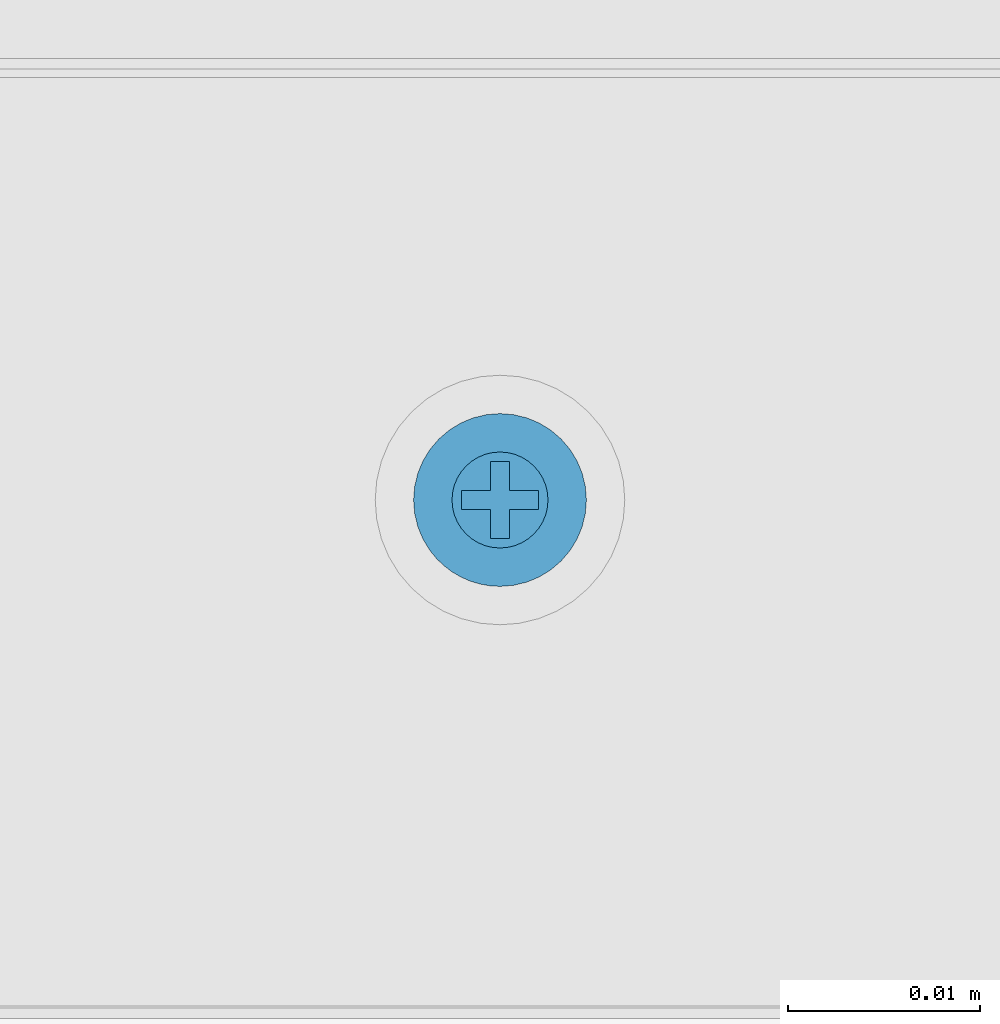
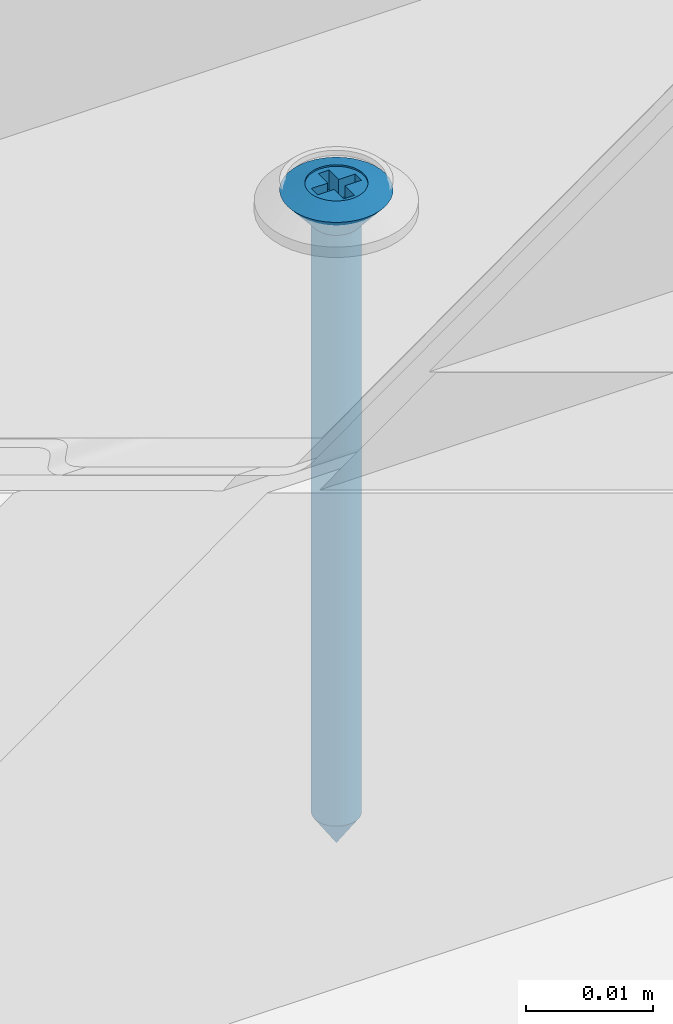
# One storey, part 20 of 36: 1 wall.
"""IFC2X3 building model written with IfcOpenShell, lengths in millimetres."""

from ifc_helpers import new_model, entity, si_unit, converted_unit, direction, frame, origin, origin_with_axes, place, context, project, spatial, faceted_brep, element, save


model = new_model("IFC2X3")

# Units and contexts
model_context = context("Model", 3, precision=1e-05, world=origin(), true_north=direction((0.0, 1.0, 0.0)))
ifc_project = project(units=[si_unit("LENGTHUNIT", "METRE", prefix="MILLI"), si_unit("AREAUNIT", "SQUARE_METRE"), si_unit("VOLUMEUNIT", "CUBIC_METRE"), converted_unit("PLANEANGLEUNIT", "DEGREE", entity("IfcPlaneAngleMeasure", 0.01745), si_unit("PLANEANGLEUNIT", "RADIAN"), dimensions=[0, 0, 0, 0, 0, 0, 0]), si_unit("SOLIDANGLEUNIT", "STERADIAN"), si_unit("MASSUNIT", "GRAM"), si_unit("TIMEUNIT", "SECOND"), si_unit("THERMODYNAMICTEMPERATUREUNIT", "DEGREE_CELSIUS"), si_unit("LUMINOUSINTENSITYUNIT", "LUMEN")], contexts=[model_context])

# Site, building, storey
site_placement = place(None, origin_with_axes())
site = spatial("IfcSite", under=ifc_project, at=site_placement, Name="Default Site", CompositionType="ELEMENT")
building_placement = place(site_placement, origin_with_axes())
building = spatial("IfcBuilding", under=site, at=building_placement, Name="Default Building", CompositionType="ELEMENT")
storey_placement = place(building_placement, origin_with_axes())
storey = spatial("IfcBuildingStorey", under=building, at=storey_placement, Name="Default Building Storey", CompositionType="ELEMENT", Elevation=0.0)

# Wall
wall_placement = place(storey_placement, frame((3652.454370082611, 5452.424146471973, 110.3903952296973), z_axis=(7.620176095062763e-14, -6.858158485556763e-13, 1.0), x_axis=(1.0, -9.714451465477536e-17, -7.620176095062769e-14)))
element("IfcWall", 1, at=wall_placement, inside=storey, Name="Kołek rozporowy min. fi 6", context=model_context, shape_type="Brep", body=[
    faceted_brep([(-1438.31414949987, -3453.283223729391, -0.4642567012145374), (-1435.814149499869, -3453.283223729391, -3.464256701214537), (-1435.78952618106, -3452.97035479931, -3.464256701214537), (-1438.258747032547, -3452.57926863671, -0.4642567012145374), (-1435.71626253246, -3452.665189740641, -3.464256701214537), (-1438.093903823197, -3451.892647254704, -0.4642567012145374), (-1435.596162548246, -3452.375242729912, -3.464256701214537), (-1437.823678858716, -3451.240266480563, -0.4642567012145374), (-1435.432183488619, -3452.107653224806, -3.464256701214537), (-1437.454725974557, -3450.638190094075, -0.4642567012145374), (-1435.228363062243, -3451.869010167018, -3.464256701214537), (-1436.996130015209, -3450.101243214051, -0.4642567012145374), (-1434.989720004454, -3451.665189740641, -3.464256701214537), (-1436.459183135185, -3449.642647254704, -0.4642567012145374), (-1434.722130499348, -3451.501210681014, -3.464256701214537), (-1435.857106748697, -3449.273694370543, -0.4642567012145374), (-1434.432183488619, -3451.381110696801, -3.464256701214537), (-1435.204725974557, -3449.003469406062, -0.4642567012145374), (-1434.12701842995, -3451.307847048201, -3.464256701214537), (-1434.51810459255, -3448.838626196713, -0.4642567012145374), (-1433.814149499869, -3451.283223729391, -3.464256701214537), (-1433.814149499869, -3448.783223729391, -0.4642567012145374), (-1433.501280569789, -3451.307847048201, -3.464256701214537), (-1433.110194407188, -3448.838626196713, -0.4642567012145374), (-1433.19611551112, -3451.381110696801, -3.464256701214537), (-1432.423573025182, -3449.003469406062, -0.4642567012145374), (-1432.906168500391, -3451.501210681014, -3.464256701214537), (-1431.771192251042, -3449.273694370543, -0.4642567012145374), (-1432.638578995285, -3451.665189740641, -3.464256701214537), (-1431.169115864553, -3449.642647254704, -0.4642567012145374), (-1432.399935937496, -3451.869010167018, -3.464256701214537), (-1430.63216898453, -3450.101243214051, -0.4642567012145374), (-1432.196115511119, -3452.107653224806, -3.464256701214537), (-1430.173573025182, -3450.638190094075, -0.4642567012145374), (-1432.032136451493, -3452.375242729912, -3.464256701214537), (-1429.804620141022, -3451.240266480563, -0.4642567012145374), (-1431.912036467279, -3452.665189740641, -3.464256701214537), (-1429.534395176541, -3451.892647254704, -0.4642567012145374), (-1431.838772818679, -3453.596092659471, -3.464256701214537), (-1429.369551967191, -3453.987178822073, -0.4642567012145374), (-1429.314149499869, -3453.283223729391, -0.4642567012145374), (-1431.81414949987, -3453.283223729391, -3.464256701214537), (-1429.369551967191, -3452.57926863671, -0.4642567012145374), (-1431.838772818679, -3452.97035479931, -3.464256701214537), (-1431.912036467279, -3453.901257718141, -3.464256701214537), (-1429.534395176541, -3454.673800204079, -0.4642567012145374), (-1432.032136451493, -3454.19120472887, -3.464256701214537), (-1429.804620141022, -3455.326180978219, -0.4642567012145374), (-1432.196115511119, -3454.458794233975, -3.464256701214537), (-1430.173573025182, -3455.928257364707, -0.4642567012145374), (-1432.399935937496, -3454.697437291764, -3.464256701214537), (-1430.63216898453, -3456.465204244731, -0.4642567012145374), (-1432.638578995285, -3454.901257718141, -3.464256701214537), (-1431.169115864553, -3456.923800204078, -0.4642567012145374), (-1432.906168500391, -3455.065236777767, -3.464256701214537), (-1431.771192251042, -3457.292753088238, -0.4642567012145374), (-1433.19611551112, -3455.185336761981, -3.464256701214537), (-1432.423573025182, -3457.562978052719, -0.4642567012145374), (-1433.501280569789, -3455.258600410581, -3.464256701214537), (-1433.110194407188, -3457.727821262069, -0.4642567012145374), (-1433.814149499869, -3455.283223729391, -3.464256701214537), (-1433.814149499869, -3457.783223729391, -0.4642567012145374), (-1434.34306778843, -3457.752031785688, -0.4642567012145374), (-1434.12701842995, -3455.258600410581, -3.464256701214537), (-1434.432183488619, -3455.185336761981, -3.464256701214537), (-1434.864653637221, -3457.658888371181, -0.4642567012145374), (-1435.371676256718, -3457.505084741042, -0.4642567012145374), (-1434.722130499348, -3455.065236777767, -3.464256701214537), (-1435.857106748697, -3457.292753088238, -0.4642567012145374), (-1434.989720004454, -3454.901257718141, -3.464256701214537), (-1435.228363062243, -3454.697437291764, -3.464256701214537), (-1436.314215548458, -3457.024836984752, -0.4642567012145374), (-1436.736665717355, -3456.705050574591, -0.4642567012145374), (-1437.11860079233, -3456.337827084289, -0.4642567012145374), (-1437.454725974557, -3455.928257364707, -0.4642567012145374), (-1435.432183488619, -3454.458794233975, -3.464256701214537), (-1435.596162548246, -3454.19120472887, -3.464256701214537), (-1437.823678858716, -3455.326180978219, -0.4642567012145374), (-1435.71626253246, -3453.901257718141, -3.464256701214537), (-1438.093903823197, -3454.673800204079, -0.4642567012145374), (-1435.78952618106, -3453.596092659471, -3.464256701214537), (-1438.258747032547, -3453.987178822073, -0.4642567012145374), (-1434.205235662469, -3455.752444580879, 0.2007375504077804), (-1433.814149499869, -3455.78322372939, 0.2007375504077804), (-1434.586691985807, -3455.660865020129, 0.2007375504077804), (-1434.949125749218, -3455.510740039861, 0.2007375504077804), (-1435.283612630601, -3455.305766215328, 0.2007375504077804), (-1435.581916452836, -3455.050990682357, 0.2007375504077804), (-1435.836691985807, -3454.752686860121, 0.2007375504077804), (-1436.04166581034, -3454.41819997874, 0.2007375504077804), (-1436.191790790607, -3454.055766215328, 0.2007375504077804), (-1436.283370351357, -3453.674309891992, 0.2007375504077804), (-1436.314149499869, -3453.283223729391, 0.2007375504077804), (-1436.283370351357, -3452.892137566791, 0.2007375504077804), (-1436.191790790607, -3452.510681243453, 0.2007375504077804), (-1436.04166581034, -3452.148247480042, 0.2007375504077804), (-1435.836691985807, -3451.81376059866, 0.200737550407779), (-1435.581916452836, -3451.515456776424, 0.2007375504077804), (-1435.283612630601, -3451.260681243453, 0.2007375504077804), (-1434.949125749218, -3451.05570741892, 0.2007375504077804), (-1434.586691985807, -3450.905582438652, 0.2007375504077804), (-1433.423063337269, -3450.814002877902, 0.2007375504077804), (-1433.814149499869, -3450.783223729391, 0.2007375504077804), (-1434.205235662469, -3450.814002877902, 0.2007375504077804), (-1433.041607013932, -3450.905582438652, 0.2007375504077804), (-1432.67917325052, -3451.05570741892, 0.2007375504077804), (-1432.344686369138, -3451.260681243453, 0.2007375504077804), (-1432.046382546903, -3451.515456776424, 0.2007375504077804), (-1431.791607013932, -3451.81376059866, 0.2007375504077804), (-1431.586633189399, -3452.148247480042, 0.2007375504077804), (-1431.436508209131, -3452.510681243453, 0.2007375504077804), (-1431.344928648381, -3452.892137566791, 0.2007375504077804), (-1431.314149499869, -3453.283223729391, 0.2007375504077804), (-1431.344928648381, -3453.674309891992, 0.2007375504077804), (-1431.436508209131, -3454.055766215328, 0.2007375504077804), (-1431.586633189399, -3454.41819997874, 0.2007375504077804), (-1431.791607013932, -3454.752686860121, 0.2007375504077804), (-1432.046382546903, -3455.050990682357, 0.2007375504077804), (-1432.344686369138, -3455.305766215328, 0.2007375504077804), (-1432.67917325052, -3455.510740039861, 0.2007375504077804), (-1433.041607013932, -3455.660865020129, 0.2007375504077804), (-1433.423063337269, -3455.752444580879, 0.2007375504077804), (-1433.814149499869, -3453.283223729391, -63.46425670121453), (-1435.789526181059, -3452.97035479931, -60.46425670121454), (-1435.814149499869, -3453.283223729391, -60.46425670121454), (-1435.716262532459, -3452.665189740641, -60.46425670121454), (-1435.596162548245, -3452.375242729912, -60.46425670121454), (-1435.432183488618, -3452.107653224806, -60.46425670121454), (-1435.228363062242, -3451.869010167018, -60.46425670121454), (-1434.989720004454, -3451.665189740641, -60.46425670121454), (-1434.722130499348, -3451.501210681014, -60.46425670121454), (-1434.432183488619, -3451.381110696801, -60.46425670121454), (-1434.127018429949, -3451.307847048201, -60.46425670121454), (-1433.814149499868, -3451.283223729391, -60.46425670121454), (-1433.501280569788, -3451.307847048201, -60.46425670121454), (-1433.196115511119, -3451.381110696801, -60.46425670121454), (-1432.90616850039, -3451.501210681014, -60.46425670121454), (-1432.638578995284, -3451.665189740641, -60.46425670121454), (-1432.399935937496, -3451.869010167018, -60.46425670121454), (-1432.196115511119, -3452.107653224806, -60.46425670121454), (-1432.032136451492, -3452.375242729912, -60.46425670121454), (-1431.912036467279, -3452.665189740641, -60.46425670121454), (-1431.838772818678, -3452.97035479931, -60.46425670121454), (-1431.814149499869, -3453.283223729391, -60.46425670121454), (-1431.838772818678, -3453.596092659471, -60.46425670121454), (-1431.912036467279, -3453.901257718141, -60.46425670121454), (-1432.032136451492, -3454.19120472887, -60.46425670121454), (-1432.196115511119, -3454.458794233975, -60.46425670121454), (-1432.399935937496, -3454.697437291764, -60.46425670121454), (-1432.638578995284, -3454.901257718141, -60.46425670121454), (-1432.90616850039, -3455.065236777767, -60.46425670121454), (-1433.196115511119, -3455.185336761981, -60.46425670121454), (-1433.501280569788, -3455.258600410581, -60.46425670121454), (-1433.814149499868, -3455.283223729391, -60.46425670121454), (-1434.127018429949, -3455.258600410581, -60.46425670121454), (-1434.432183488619, -3455.185336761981, -60.46425670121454), (-1434.722130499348, -3455.065236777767, -60.46425670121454), (-1434.989720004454, -3454.901257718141, -60.46425670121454), (-1435.228363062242, -3454.697437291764, -60.46425670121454), (-1435.432183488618, -3454.458794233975, -60.46425670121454), (-1435.596162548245, -3454.19120472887, -60.46425670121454), (-1435.716262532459, -3453.901257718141, -60.46425670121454), (-1435.789526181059, -3453.596092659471, -60.46425670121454), (-1435.814149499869, -3453.783223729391, 0.04999999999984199), (-1436.04166581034, -3454.41819997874, 0.04999999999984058), (-1436.191790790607, -3454.055766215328, 0.04999999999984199), (-1435.814149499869, -3452.783223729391, 0.04999999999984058), (-1434.314149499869, -3453.783223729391, 0.04999999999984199), (-1434.314149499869, -3455.28322372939, 0.04999999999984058), (-1433.314149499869, -3455.28322372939, 0.04999999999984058), (-1433.314149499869, -3453.783223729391, 0.04999999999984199), (-1431.814149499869, -3453.783223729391, 0.04999999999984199), (-1431.814149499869, -3452.783223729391, 0.04999999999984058), (-1433.314149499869, -3452.783223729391, 0.04999999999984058), (-1433.314149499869, -3451.283223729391, 0.04999999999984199), (-1434.314149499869, -3451.283223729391, 0.04999999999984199), (-1434.314149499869, -3452.783223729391, 0.04999999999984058), (-1436.283370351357, -3453.674309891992, 0.04999999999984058), (-1436.314149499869, -3453.283223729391, 0.04999999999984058), (-1436.283370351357, -3452.892137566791, 0.04999999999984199), (-1436.191790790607, -3452.510681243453, 0.04999999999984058), (-1436.04166581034, -3452.148247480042, 0.04999999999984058), (-1435.836691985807, -3451.81376059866, 0.04999999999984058), (-1435.581916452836, -3451.515456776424, 0.04999999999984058), (-1435.283612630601, -3451.260681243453, 0.04999999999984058), (-1434.949125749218, -3451.05570741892, 0.04999999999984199), (-1434.586691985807, -3450.905582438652, 0.04999999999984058), (-1434.205235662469, -3450.814002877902, 0.04999999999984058), (-1433.814149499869, -3450.783223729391, 0.04999999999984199), (-1433.423063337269, -3450.814002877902, 0.04999999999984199), (-1433.041607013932, -3450.905582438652, 0.04999999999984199), (-1432.67917325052, -3451.05570741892, 0.04999999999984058), (-1432.344686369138, -3451.260681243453, 0.04999999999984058), (-1432.046382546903, -3451.515456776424, 0.04999999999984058), (-1431.791607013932, -3451.81376059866, 0.04999999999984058), (-1431.586633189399, -3452.148247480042, 0.04999999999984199), (-1431.436508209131, -3452.510681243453, 0.04999999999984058), (-1431.344928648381, -3452.892137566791, 0.04999999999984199), (-1431.314149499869, -3453.283223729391, 0.04999999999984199), (-1431.344928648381, -3453.674309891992, 0.04999999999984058), (-1431.436508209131, -3454.055766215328, 0.04999999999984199), (-1431.586633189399, -3454.41819997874, 0.04999999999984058), (-1431.791607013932, -3454.752686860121, 0.04999999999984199), (-1432.046382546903, -3455.050990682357, 0.04999999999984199), (-1432.344686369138, -3455.305766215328, 0.04999999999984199), (-1432.67917325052, -3455.510740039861, 0.04999999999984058), (-1433.041607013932, -3455.660865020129, 0.04999999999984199), (-1433.423063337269, -3455.752444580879, 0.04999999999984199), (-1433.814149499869, -3455.78322372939, 0.04999999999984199), (-1434.205235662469, -3455.752444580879, 0.04999999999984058), (-1434.586691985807, -3455.660865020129, 0.04999999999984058), (-1434.949125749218, -3455.510740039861, 0.04999999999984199), (-1435.283612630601, -3455.305766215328, 0.04999999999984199), (-1435.581916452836, -3455.050990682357, 0.04999999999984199), (-1435.836691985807, -3454.752686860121, 0.04999999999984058), (-1434.314149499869, -3452.783223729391, -1.79926244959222), (-1434.314149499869, -3451.283223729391, -1.799262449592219), (-1433.314149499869, -3451.283223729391, -1.799262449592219), (-1433.314149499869, -3452.783223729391, -1.79926244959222), (-1431.81414949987, -3452.783223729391, -1.79926244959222), (-1431.81414949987, -3453.783223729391, -1.799262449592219), (-1433.314149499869, -3453.783223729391, -1.799262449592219), (-1433.314149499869, -3455.28322372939, -1.79926244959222), (-1434.314149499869, -3455.28322372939, -1.79926244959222), (-1434.314149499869, -3453.783223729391, -1.799262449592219), (-1435.814149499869, -3453.783223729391, -1.799262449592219), (-1435.814149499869, -3452.783223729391, -1.79926244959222)], [[[0, 1, 2, 3]], [[4, 5, 3, 2]], [[6, 7, 5, 4]], [[7, 6, 8, 9]], [[10, 11, 9, 8]], [[11, 10, 12, 13]], [[14, 15, 13, 12]], [[16, 17, 15, 14]], [[17, 16, 18, 19]], [[20, 21, 19, 18]], [[21, 20, 22, 23]], [[24, 25, 23, 22]], [[26, 27, 25, 24]], [[27, 26, 28, 29]], [[30, 31, 29, 28]], [[31, 30, 32, 33]], [[34, 35, 33, 32]], [[36, 37, 35, 34]], [[38, 39, 40, 41]], [[41, 40, 42, 43]], [[37, 36, 43, 42]], [[44, 45, 39, 38]], [[46, 47, 45, 44]], [[47, 46, 48, 49]], [[50, 51, 49, 48]], [[51, 50, 52, 53]], [[54, 55, 53, 52]], [[56, 57, 55, 54]], [[57, 56, 58, 59]], [[60, 61, 59, 58]], [[62, 61, 63]], [[61, 60, 63]], [[63, 64, 62]], [[64, 65, 62]], [[66, 65, 64]], [[64, 67, 66]], [[67, 68, 66]], [[69, 70, 71]], [[70, 72, 71]], [[71, 68, 69]], [[68, 67, 69]], [[70, 73, 72]], [[74, 73, 75]], [[73, 70, 75]], [[76, 77, 74, 75]], [[78, 79, 77, 76]], [[79, 78, 80, 81]], [[1, 0, 81, 80]], [[82, 83, 62]], [[83, 61, 62]], [[62, 65, 82]], [[65, 84, 82]], [[66, 68, 84]], [[68, 85, 84]], [[84, 65, 66]], [[86, 85, 71]], [[85, 68, 71]], [[72, 73, 87]], [[87, 86, 72]], [[86, 71, 72]], [[88, 87, 74]], [[87, 73, 74]], [[77, 89, 88, 74]], [[79, 90, 89, 77]], [[90, 79, 81, 91]], [[0, 92, 91, 81]], [[92, 0, 3, 93]], [[5, 94, 93, 3]], [[7, 95, 94, 5]], [[95, 7, 9, 96]], [[11, 97, 96, 9]], [[97, 11, 13, 98]], [[15, 99, 98, 13]], [[17, 100, 99, 15]], [[23, 101, 102, 21]], [[21, 102, 103, 19]], [[100, 17, 19, 103]], [[25, 104, 101, 23]], [[27, 105, 104, 25]], [[105, 27, 29, 106]], [[31, 107, 106, 29]], [[107, 31, 33, 108]], [[35, 109, 108, 33]], [[37, 110, 109, 35]], [[110, 37, 42, 111]], [[40, 112, 111, 42]], [[112, 40, 39, 113]], [[45, 114, 113, 39]], [[47, 115, 114, 45]], [[115, 47, 49, 116]], [[51, 117, 116, 49]], [[117, 51, 53, 118]], [[55, 119, 118, 53]], [[57, 120, 119, 55]], [[120, 57, 59, 121]], [[61, 83, 121, 59]], [[122, 123, 124]], [[122, 125, 123]], [[122, 126, 125]], [[127, 126, 122]], [[122, 128, 127]], [[129, 128, 122]], [[122, 130, 129]], [[122, 131, 130]], [[132, 131, 122]], [[122, 133, 132]], [[134, 133, 122]], [[122, 135, 134]], [[122, 136, 135]], [[137, 136, 122]], [[122, 138, 137]], [[139, 138, 122]], [[122, 140, 139]], [[122, 141, 140]], [[142, 141, 122]], [[122, 143, 142]], [[144, 143, 122]], [[122, 145, 144]], [[122, 146, 145]], [[147, 146, 122]], [[122, 148, 147]], [[149, 148, 122]], [[122, 150, 149]], [[122, 151, 150]], [[152, 151, 122]], [[122, 153, 152]], [[154, 153, 122]], [[122, 155, 154]], [[122, 156, 155]], [[157, 156, 122]], [[122, 158, 157]], [[159, 158, 122]], [[122, 160, 159]], [[122, 161, 160]], [[162, 161, 122]], [[124, 162, 122]], [[1, 124, 123, 2]], [[125, 4, 2, 123]], [[126, 6, 4, 125]], [[6, 126, 127, 8]], [[128, 10, 8, 127]], [[10, 128, 129, 12]], [[130, 14, 12, 129]], [[131, 16, 14, 130]], [[16, 131, 132, 18]], [[133, 20, 18, 132]], [[20, 133, 134, 22]], [[135, 24, 22, 134]], [[136, 26, 24, 135]], [[26, 136, 137, 28]], [[138, 30, 28, 137]], [[30, 138, 139, 32]], [[140, 34, 32, 139]], [[141, 36, 34, 140]], [[144, 38, 41, 143]], [[143, 41, 43, 142]], [[36, 141, 142, 43]], [[145, 44, 38, 144]], [[146, 46, 44, 145]], [[46, 146, 147, 48]], [[148, 50, 48, 147]], [[50, 148, 149, 52]], [[150, 54, 52, 149]], [[151, 56, 54, 150]], [[56, 151, 152, 58]], [[153, 60, 58, 152]], [[60, 153, 154, 63]], [[155, 64, 63, 154]], [[156, 67, 64, 155]], [[67, 156, 157, 69]], [[158, 70, 69, 157]], [[70, 158, 159, 75]], [[160, 76, 75, 159]], [[161, 78, 76, 160]], [[78, 161, 162, 80]], [[124, 1, 80, 162]], [[163, 164, 165, 166]], [[163, 167, 168, 169, 170, 171, 172, 173, 174, 175, 176, 166, 165, 177, 178, 179, 180, 181, 182, 183, 184, 185, 186, 187, 188, 189, 190, 191, 192, 193, 194, 195, 196, 197, 198, 199, 200, 201, 202, 203, 204, 205, 206, 207, 208, 209, 210, 211, 212, 213, 214, 164]], [[199, 198, 112, 113]], [[113, 114, 200, 199]], [[114, 115, 201, 200]], [[202, 201, 115, 116]], [[116, 117, 203, 202]], [[204, 203, 117, 118]], [[118, 119, 205, 204]], [[119, 120, 206, 205]], [[207, 206, 120, 121]], [[121, 83, 208, 207]], [[209, 208, 83, 82]], [[82, 84, 210, 209]], [[84, 85, 211, 210]], [[212, 211, 85, 86]], [[86, 87, 213, 212]], [[214, 213, 87, 88]], [[88, 89, 164, 214]], [[89, 90, 165, 164]], [[92, 93, 179, 178]], [[91, 92, 178, 177]], [[177, 165, 90, 91]], [[93, 94, 180, 179]], [[94, 95, 181, 180]], [[182, 181, 95, 96]], [[96, 97, 183, 182]], [[184, 183, 97, 98]], [[98, 99, 185, 184]], [[99, 100, 186, 185]], [[187, 186, 100, 103]], [[103, 102, 188, 187]], [[189, 188, 102, 101]], [[101, 104, 190, 189]], [[104, 105, 191, 190]], [[192, 191, 105, 106]], [[106, 107, 193, 192]], [[194, 193, 107, 108]], [[108, 109, 195, 194]], [[109, 110, 196, 195]], [[197, 196, 110, 111]], [[111, 112, 198, 197]], [[215, 216, 217, 218, 219, 220, 221, 222, 223, 224, 225, 226]], [[216, 175, 174, 217]], [[215, 176, 175, 216]], [[226, 166, 176, 215]], [[225, 163, 166, 226]], [[224, 167, 163, 225]], [[223, 168, 167, 224]], [[222, 169, 168, 223]], [[221, 170, 169, 222]], [[220, 171, 170, 221]], [[219, 172, 171, 220]], [[218, 173, 172, 219]], [[217, 174, 173, 218]]]),
])

save(model, "model.ifc")
